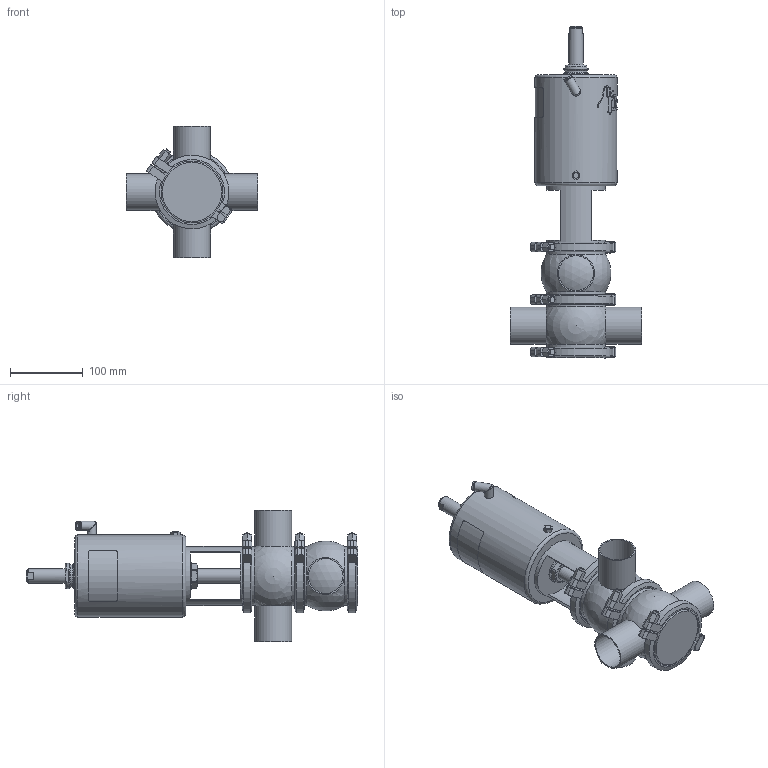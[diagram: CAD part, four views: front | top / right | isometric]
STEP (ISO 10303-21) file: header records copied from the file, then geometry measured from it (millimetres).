
FILE_DESCRIPTION (( 'STEP AP214' ), '1' );
FILE_NAME ('INNOVA M C W OD 2 T2 AS NC_10.241.16.0007.STEP', '2024-08-07T12:42:03', ( '' ), ( '' ), 'SwSTEP 2.0', 'SolidWorks 2023', '' );
FILE_SCHEMA (( 'AUTOMOTIVE_DESIGN' ));
Length unit declared in the file: millimetre
Products named in the file (6): 10.241.15.0001_DIN 050; 10.240.15.0007_OD 2"; 10.240.15.0014_T2 AS P180; 10.240.15.0010_DN 050; 10.240.15.0001_DN 050; INNOVA M C W OD 2 T2 AS NC_10.241.16.0007
Assembly tree (8 placements, depth 2):
  INNOVA M C W OD 2 T2 AS NC_10.241.16.0007
    10.240.15.0007_OD 2"  x2
    10.240.15.0010_DN 050
    10.240.15.0014_T2 AS P180
    10.240.15.0001_DN 050  x3
    10.241.15.0001_DIN 050
Bounding box: 180 x 455.27 x 180 mm (x, y, z)
Volume: 2763220.8 mm3; surface area: 324043.6 mm2
Topology: 9 solids, 9 shells, 467 faces, 1227 edges, 801 vertices
Faces by surface type: plane 227, cylinder 114, bspline 80, cone 36, sphere 6, torus 4
Full cylindrical faces by diameter (mm): 6.15 x1, 8 x7, 8.5 x1, 10.5 x1, 12.5 x3, 16 x1, 20 x2, 31 x1, 34.5 x2, 36.5 x1, 47.5 x4, 50.8 x4, 81 x6, 93 x6, 112.5 x1
Entity records: 20451 total; most frequent: CARTESIAN_POINT 11274, ORIENTED_EDGE 1600, DIRECTION 1221, EDGE_CURVE 800, VERTEX_POINT 551, AXIS2_PLACEMENT_3D 466, EDGE_LOOP 407, FACE_OUTER_BOUND 366
